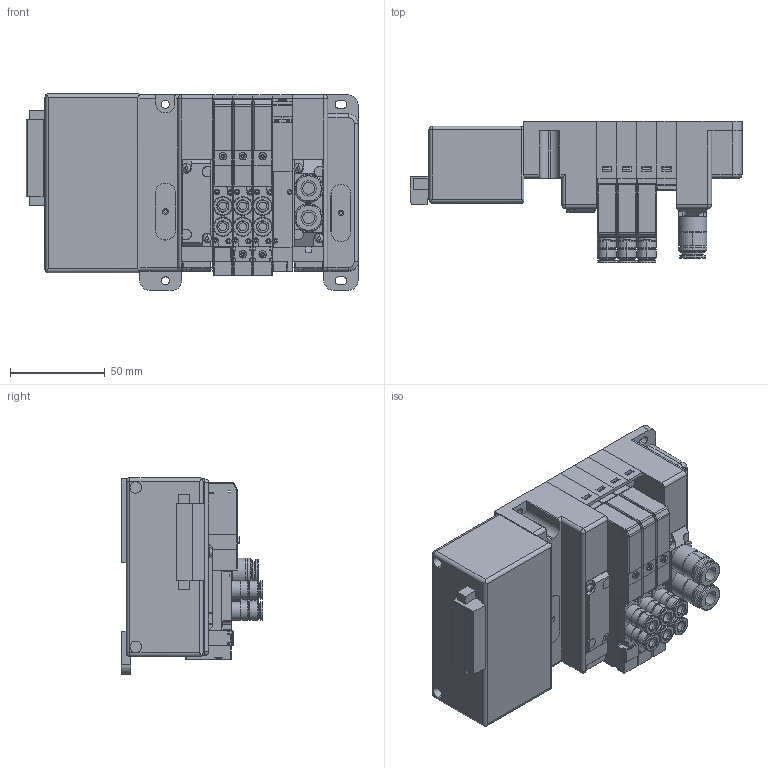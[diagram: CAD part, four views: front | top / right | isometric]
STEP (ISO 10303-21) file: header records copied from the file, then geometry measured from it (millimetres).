
FILE_DESCRIPTION( (''), '2;1');
FILE_NAME ('CVICAD02.9768.F10M4XS-JR-B1_10965.stp','2020-08-31T10:44:32',(''),(''),'spGate 12.6.6','','');
FILE_SCHEMA (('AUTOMOTIVE_DESIGN'));
Length unit declared in the file: millimetre
Products named in the file (18): Assembly; F10_配管LASSY_ダイレクト; キャップ_DINねじ穴用; F10-PP; F10ZX_ValveBaseAssy; F10_VP; F10_配管RAssy_ダイレクト; F10XBPP; F10_Adptor; F_3PortBody; F10_Cap; F10_SwitchBlock1; F_Connector-L; F10T_Body; F10_Port-FJ; F10_SwitchBlock; F10_Port-PJ; YS6Bx
Assembly tree (39 placements, depth 2):
  Assembly
    F10_配管LASSY_ダイレクト
    キャップ_DINねじ穴用  x2
    F10-PP  x3
    F10ZX_ValveBaseAssy  x4
    F10_VP  x4
    F10_配管RAssy_ダイレクト
    F10XBPP
    F10_Adptor  x3
    F_3PortBody  x3
    F10_Cap  x3
    F10_SwitchBlock1
    F_Connector-L  x3
    F10T_Body  x3
    F10_Port-FJ  x3
    F10_SwitchBlock  x2
    F10_Port-PJ
    YS6Bx
Bounding box: 175 x 74.6 x 103.7 mm (x, y, z)
Volume: 536101.5 mm3; surface area: 157682.6 mm2
Topology: 38 solids, 39 shells, 3221 faces, 8642 edges, 6046 vertices
Faces by surface type: plane 2138, cylinder 797, bspline 274, sphere 12
Entity records: 77148 total; most frequent: CARTESIAN_POINT 10945, ORIENTED_EDGE 7673, DIRECTION 6818, COLOUR_RGB 5314, PRESENTATION_STYLE_ASSIGNMENT 5314, STYLED_ITEM 5314, EDGE_CURVE 3838, DRAUGHTING_PRE_DEFINED_CURVE_FONT 3838
